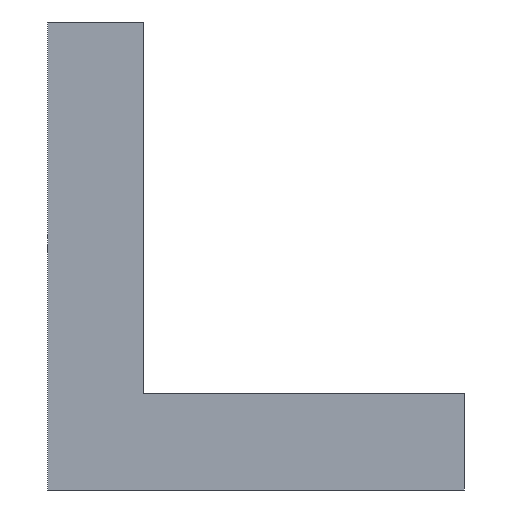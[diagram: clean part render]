
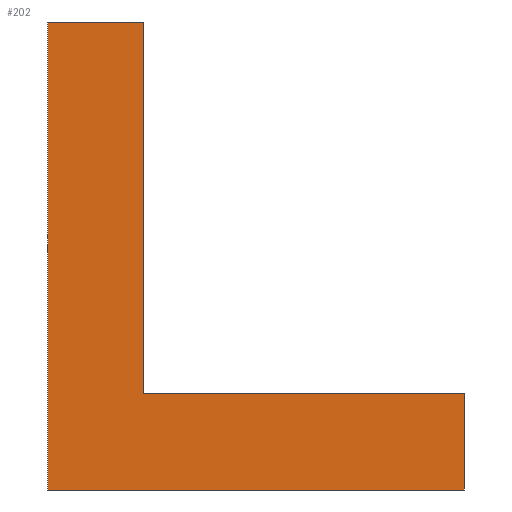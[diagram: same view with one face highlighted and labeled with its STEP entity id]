
A CAD part, left-side view. The second image highlights one B-rep face of the part: STEP entity #202.
In plain terms, the highlighted planar face has unit normal (-1, 0, 0).
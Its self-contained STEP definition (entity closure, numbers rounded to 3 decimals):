
#14 = CARTESIAN_POINT ( 'NONE',  ( 0., 6.5, 7.3 ) ) ;
#33 = DIRECTION ( 'NONE',  ( 0., -1., 0. ) ) ;
#34 = DIRECTION ( 'NONE',  ( 0., 0., -1. ) ) ;
#38 = DIRECTION ( 'NONE',  ( 1., 0., 0. ) ) ;
#40 = VECTOR ( 'NONE', #129, 1000. ) ;
#63 = ORIENTED_EDGE ( 'NONE', *, *, #556, .F. ) ;
#78 = AXIS2_PLACEMENT_3D ( 'NONE', #361, #38, #34 ) ;
#92 = VERTEX_POINT ( 'NONE', #563 ) ;
#95 = CARTESIAN_POINT ( 'NONE',  ( 0., 5., 7.3 ) ) ;
#102 = VERTEX_POINT ( 'NONE', #95 ) ;
#129 = DIRECTION ( 'NONE',  ( 0., 0., -1. ) ) ;
#130 = ORIENTED_EDGE ( 'NONE', *, *, #446, .F. ) ;
#131 = CARTESIAN_POINT ( 'NONE',  ( 0., 5., 1.5 ) ) ;
#133 = CARTESIAN_POINT ( 'NONE',  ( 0., 6.5, 7.3 ) ) ;
#140 = VECTOR ( 'NONE', #298, 1000. ) ;
#143 = EDGE_CURVE ( 'NONE', #443, #92, #447, .T. ) ;
#161 = CARTESIAN_POINT ( 'NONE',  ( 0., 0., 0. ) ) ;
#171 = PLANE ( 'NONE',  #78 ) ;
#179 = VECTOR ( 'NONE', #515, 1000. ) ;
#202 = ADVANCED_FACE ( 'NONE', ( #220 ), #171, .F. ) ;
#207 = LINE ( 'NONE', #14, #401 ) ;
#220 = FACE_OUTER_BOUND ( 'NONE', #334, .T. ) ;
#234 = CARTESIAN_POINT ( 'NONE',  ( 0., 6.5, 0. ) ) ;
#245 = ORIENTED_EDGE ( 'NONE', *, *, #382, .F. ) ;
#262 = VERTEX_POINT ( 'NONE', #234 ) ;
#294 = LINE ( 'NONE', #509, #179 ) ;
#298 = DIRECTION ( 'NONE',  ( 0., 1., 0. ) ) ;
#334 = EDGE_LOOP ( 'NONE', ( #572, #63, #245, #480, #349, #130 ) ) ;
#343 = LINE ( 'NONE', #161, #140 ) ;
#349 = ORIENTED_EDGE ( 'NONE', *, *, #362, .F. ) ;
#361 = CARTESIAN_POINT ( 'NONE',  ( 0., 0., 0. ) ) ;
#362 = EDGE_CURVE ( 'NONE', #262, #554, #294, .T. ) ;
#382 = EDGE_CURVE ( 'NONE', #102, #567, #385, .T. ) ;
#385 = LINE ( 'NONE', #475, #516 ) ;
#401 = VECTOR ( 'NONE', #422, 1000. ) ;
#410 = VECTOR ( 'NONE', #33, 1000. ) ;
#411 = EDGE_CURVE ( 'NONE', #554, #102, #207, .T. ) ;
#422 = DIRECTION ( 'NONE',  ( 0., -1., 0. ) ) ;
#424 = CARTESIAN_POINT ( 'NONE',  ( 0., 0., 1.5 ) ) ;
#443 = VERTEX_POINT ( 'NONE', #424 ) ;
#446 = EDGE_CURVE ( 'NONE', #92, #262, #343, .T. ) ;
#447 = LINE ( 'NONE', #539, #40 ) ;
#475 = CARTESIAN_POINT ( 'NONE',  ( 0., 5., 7.3 ) ) ;
#480 = ORIENTED_EDGE ( 'NONE', *, *, #411, .F. ) ;
#492 = LINE ( 'NONE', #131, #410 ) ;
#495 = CARTESIAN_POINT ( 'NONE',  ( 0., 5., 1.5 ) ) ;
#509 = CARTESIAN_POINT ( 'NONE',  ( 0., 6.5, 0. ) ) ;
#512 = DIRECTION ( 'NONE',  ( 0., 0., -1. ) ) ;
#515 = DIRECTION ( 'NONE',  ( 0., 0., 1. ) ) ;
#516 = VECTOR ( 'NONE', #512, 1000. ) ;
#539 = CARTESIAN_POINT ( 'NONE',  ( 0., 0., 1.5 ) ) ;
#554 = VERTEX_POINT ( 'NONE', #133 ) ;
#556 = EDGE_CURVE ( 'NONE', #567, #443, #492, .T. ) ;
#563 = CARTESIAN_POINT ( 'NONE',  ( 0., 0., 0. ) ) ;
#567 = VERTEX_POINT ( 'NONE', #495 ) ;
#572 = ORIENTED_EDGE ( 'NONE', *, *, #143, .F. ) ;
